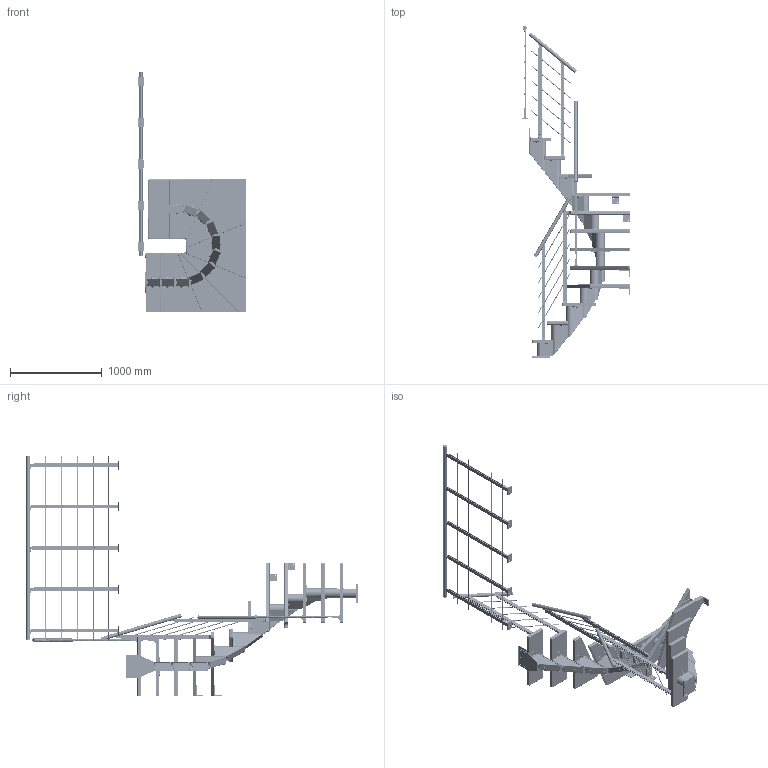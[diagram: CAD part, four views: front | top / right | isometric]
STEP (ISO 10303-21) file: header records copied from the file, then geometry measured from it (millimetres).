
FILE_DESCRIPTION (( 'STEP AP214' ), '1' );
FILE_NAME ('5488 - FRANKFURT ½-sving DESIGN gelænder.STEP', '2021-09-03T09:48:23', ( '' ), ( '' ), 'SwSTEP 2.0', 'SolidWorks 2019', '' );
FILE_SCHEMA (( 'AUTOMOTIVE_DESIGN' ));
Length unit declared in the file: millimetre
Products named in the file (144): K3-06338; WIRE Ø10^5083974_02; 5083974; K1-1077295_K1-1077297<As Machined>; K1-34010; K1-1077411; K3-10450; K2-1077712_Left; K3-08001; K1-1077720_Welded; K2-1077425_K2-1077427; K1-1077730; K2-1077700_K2-1077702; M2-1078308; K2-1077730; M2-1078309; K2-1077440_K2-1077442; H2-20505; K2-1077725; M2-1078905; WIRE Ø10^5083974_03; K1-18049; M2-1078307; K3-08023; K1-1077720-1_Welded; K1-1077710; K2-1077735_90ø; M2-1078300; WIRE Ø10^5083974_04; K3-08023-1; K1-34031; K1-18099; K1-1077700; K2-1077705_K2-1077707; K3-10454; K2-1077420_K2-1077422; K1-1077002; K1-1077400_K1-1077402; 1077725; K1-1077727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
Assembly tree (445 placements, depth 5):
  K3-08001
  5488 - FRANKFURT ½-sving DESIGN gelænder
    5083974
      1077480-01_23
        K2-1077420_K2-1077422
          K1-34031
          K1-34030
          K1-1077002
        K2-1077425_K2-1077427
          K1-34031
          K1-34030
        K2-1077425_K2-1077427
          K1-34031
          K1-34030
        K2-1077425_K2-1077427
          K1-34031
          K1-34030
        K2-1077425_K2-1077427
          K1-34031
          K1-34030
        K2-1077425_K2-1077427
          K1-34031
          K1-34030
        K2-1077425_K2-1077427
          K1-34031
          K1-34030
        K2-1077425_K2-1077427
          K1-34031
          K1-34030
        K2-1077425_K2-1077427
          K1-34031
          K1-34030
        K2-1077425_K2-1077427
          K1-34031
          K1-34030
        K2-1077425_K2-1077427
          K1-34031
          K1-34030
        K2-1077430_K2-1077432
          K1-34021
          K1-34020___
          K1-1077411
        K2-1077440_K2-1077442
          K1-34010
          K1-34011
        K1-1077400_K1-1077402
        K1-1077070_K1-1077072
        H2-20505
        H2-20506
        R1-63500_R1-63500
        K3-04053_K3-04053
      M2-1078300
      M2-1078309  x2
      M2-1078308  x2
      M2-1078307  x2
      M2-1078306  x2
      M2-1078301  x3
      K2-1077712_Left
        K2-1077700_K2-1077702
          K1-1077701
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Bounding box: 1183.44 x 3611.66 x 2620 mm (x, y, z)
Volume: 95670613.5 mm3; surface area: 13026965.2 mm2
Topology: 377 solids, 377 shells, 10008 faces, 23009 edges, 13758 vertices
Faces by surface type: plane 3522, cylinder 3001, cone 2156, bspline 859, torus 470
Entity records: 73078 total; most frequent: CARTESIAN_POINT 27635, DIRECTION 8659, ORIENTED_EDGE 7674, EDGE_CURVE 3837, AXIS2_PLACEMENT_3D 3428, VERTEX_POINT 2346, EDGE_LOOP 1823, LINE 1803
